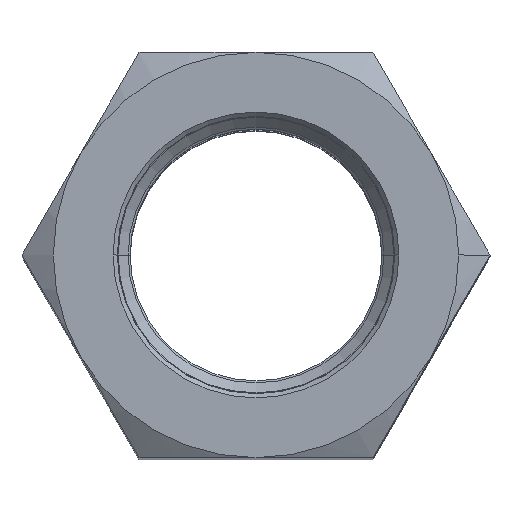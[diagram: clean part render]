
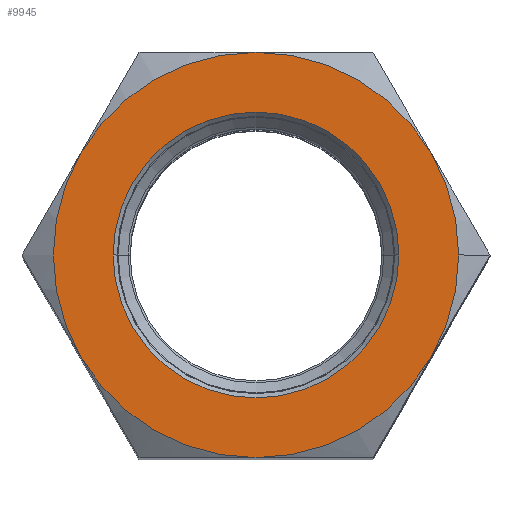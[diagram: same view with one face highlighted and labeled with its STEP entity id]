
A CAD part, top view. The second image highlights one B-rep face of the part: STEP entity #9945.
In plain terms, the highlighted planar face has unit normal (0, 0, 1).
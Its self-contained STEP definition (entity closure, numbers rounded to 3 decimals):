
#19 = ORIENTED_EDGE ( 'NONE', *, *, #7348, .F. ) ;
#508 = AXIS2_PLACEMENT_3D ( 'NONE', #5504, #14584, #6819 ) ;
#779 = DIRECTION ( 'NONE',  ( -1., 0., 0. ) ) ;
#870 = CARTESIAN_POINT ( 'NONE',  ( 8.227, 4.75, 27. ) ) ;
#985 = CIRCLE ( 'NONE', #1119, 9.5 ) ;
#1022 = DIRECTION ( 'NONE',  ( 1., 0., 0. ) ) ;
#1119 = AXIS2_PLACEMENT_3D ( 'NONE', #2523, #11692, #3830 ) ;
#1401 = DIRECTION ( 'NONE',  ( 0., 0., -1. ) ) ;
#1517 = CIRCLE ( 'NONE', #14993, 9.5 ) ;
#1647 = CARTESIAN_POINT ( 'NONE',  ( -8.227, -4.75, 27. ) ) ;
#1997 = ORIENTED_EDGE ( 'NONE', *, *, #15828, .T. ) ;
#2523 = CARTESIAN_POINT ( 'NONE',  ( 0., 0., 27. ) ) ;
#2727 = EDGE_CURVE ( 'NONE', #4271, #3280, #15920, .T. ) ;
#2812 = CIRCLE ( 'NONE', #7295, 9.5 ) ;
#2899 = VERTEX_POINT ( 'NONE', #1647 ) ;
#3064 = ORIENTED_EDGE ( 'NONE', *, *, #8447, .F. ) ;
#3181 = AXIS2_PLACEMENT_3D ( 'NONE', #16592, #8876, #1022 ) ;
#3280 = VERTEX_POINT ( 'NONE', #8014 ) ;
#3421 = DIRECTION ( 'NONE',  ( 0., 0., -1. ) ) ;
#3721 = ORIENTED_EDGE ( 'NONE', *, *, #15866, .F. ) ;
#3830 = DIRECTION ( 'NONE',  ( 1., 0., 0. ) ) ;
#4036 = CARTESIAN_POINT ( 'NONE',  ( 0., 0., 27. ) ) ;
#4051 = EDGE_CURVE ( 'NONE', #15728, #12837, #13264, .T. ) ;
#4271 = VERTEX_POINT ( 'NONE', #9378 ) ;
#5040 = CARTESIAN_POINT ( 'NONE',  ( 8.227, -4.75, 27. ) ) ;
#5215 = CARTESIAN_POINT ( 'NONE',  ( 0., 0., 27. ) ) ;
#5366 = DIRECTION ( 'NONE',  ( 1., 0., 0. ) ) ;
#5489 = CARTESIAN_POINT ( 'NONE',  ( -8.227, 4.75, 27. ) ) ;
#5504 = CARTESIAN_POINT ( 'NONE',  ( 0., 0., 27. ) ) ;
#6107 = CARTESIAN_POINT ( 'NONE',  ( 0., 9.5, 27. ) ) ;
#6323 = CIRCLE ( 'NONE', #6406, 9.5 ) ;
#6365 = DIRECTION ( 'NONE',  ( -1., 0., 0. ) ) ;
#6406 = AXIS2_PLACEMENT_3D ( 'NONE', #5215, #14307, #6536 ) ;
#6536 = DIRECTION ( 'NONE',  ( 1., 0., 0. ) ) ;
#6742 = CARTESIAN_POINT ( 'NONE',  ( 9.5, 0., 27. ) ) ;
#6778 = ORIENTED_EDGE ( 'NONE', *, *, #4051, .F. ) ;
#6819 = DIRECTION ( 'NONE',  ( 1., 0., 0. ) ) ;
#7240 = DIRECTION ( 'NONE',  ( 0., 0., 1. ) ) ;
#7295 = AXIS2_PLACEMENT_3D ( 'NONE', #9273, #1401, #10585 ) ;
#7301 = EDGE_LOOP ( 'NONE', ( #15622, #13775 ) ) ;
#7348 = EDGE_CURVE ( 'NONE', #12837, #11735, #8221, .T. ) ;
#8014 = CARTESIAN_POINT ( 'NONE',  ( -6.7, 0., 27. ) ) ;
#8221 = CIRCLE ( 'NONE', #508, 9.5 ) ;
#8447 = EDGE_CURVE ( 'NONE', #8874, #15726, #1517, .T. ) ;
#8488 = PLANE ( 'NONE',  #10947 ) ;
#8632 = DIRECTION ( 'NONE',  ( 0., 0., -1. ) ) ;
#8874 = VERTEX_POINT ( 'NONE', #5489 ) ;
#8876 = DIRECTION ( 'NONE',  ( 0., 0., -1. ) ) ;
#9022 = ORIENTED_EDGE ( 'NONE', *, *, #15783, .F. ) ;
#9033 = EDGE_LOOP ( 'NONE', ( #11729, #19, #6778, #1997, #3064, #9022, #3721 ) ) ;
#9273 = CARTESIAN_POINT ( 'NONE',  ( 0., 0., 27. ) ) ;
#9378 = CARTESIAN_POINT ( 'NONE',  ( 6.7, 0., 27. ) ) ;
#9945 = ADVANCED_FACE ( 'NONE', ( #13233, #16637 ), #8488, .T. ) ;
#10059 = CIRCLE ( 'NONE', #16351, 6.7 ) ;
#10585 = DIRECTION ( 'NONE',  ( 1., 0., 0. ) ) ;
#10619 = CARTESIAN_POINT ( 'NONE',  ( 0., -9.5, 27. ) ) ;
#10947 = AXIS2_PLACEMENT_3D ( 'NONE', #14966, #7240, #16254 ) ;
#11288 = CARTESIAN_POINT ( 'NONE',  ( 0., 0., 27. ) ) ;
#11304 = AXIS2_PLACEMENT_3D ( 'NONE', #11408, #12905, #6365 ) ;
#11408 = CARTESIAN_POINT ( 'NONE',  ( 0., 0., 27. ) ) ;
#11692 = DIRECTION ( 'NONE',  ( 0., 0., -1. ) ) ;
#11729 = ORIENTED_EDGE ( 'NONE', *, *, #14525, .F. ) ;
#11735 = VERTEX_POINT ( 'NONE', #5040 ) ;
#12567 = DIRECTION ( 'NONE',  ( 1., 0., 0. ) ) ;
#12837 = VERTEX_POINT ( 'NONE', #6742 ) ;
#12905 = DIRECTION ( 'NONE',  ( 0., 0., -1. ) ) ;
#12914 = CIRCLE ( 'NONE', #13417, 9.5 ) ;
#13175 = DIRECTION ( 'NONE',  ( 0., 0., -1. ) ) ;
#13233 = FACE_OUTER_BOUND ( 'NONE', #9033, .T. ) ;
#13264 = CIRCLE ( 'NONE', #3181, 9.5 ) ;
#13417 = AXIS2_PLACEMENT_3D ( 'NONE', #4036, #13175, #5366 ) ;
#13539 = VERTEX_POINT ( 'NONE', #10619 ) ;
#13775 = ORIENTED_EDGE ( 'NONE', *, *, #2727, .T. ) ;
#14307 = DIRECTION ( 'NONE',  ( 0., 0., 1. ) ) ;
#14525 = EDGE_CURVE ( 'NONE', #11735, #13539, #12914, .T. ) ;
#14584 = DIRECTION ( 'NONE',  ( 0., 0., -1. ) ) ;
#14966 = CARTESIAN_POINT ( 'NONE',  ( -10.97, 0., 27. ) ) ;
#14993 = AXIS2_PLACEMENT_3D ( 'NONE', #11288, #3421, #12567 ) ;
#15078 = EDGE_CURVE ( 'NONE', #3280, #4271, #10059, .T. ) ;
#15622 = ORIENTED_EDGE ( 'NONE', *, *, #15078, .T. ) ;
#15726 = VERTEX_POINT ( 'NONE', #6107 ) ;
#15728 = VERTEX_POINT ( 'NONE', #870 ) ;
#15783 = EDGE_CURVE ( 'NONE', #2899, #8874, #985, .T. ) ;
#15828 = EDGE_CURVE ( 'NONE', #15728, #15726, #6323, .T. ) ;
#15866 = EDGE_CURVE ( 'NONE', #13539, #2899, #2812, .T. ) ;
#15920 = CIRCLE ( 'NONE', #11304, 6.7 ) ;
#16254 = DIRECTION ( 'NONE',  ( 1., 0., 0. ) ) ;
#16340 = CARTESIAN_POINT ( 'NONE',  ( 0., 0., 27. ) ) ;
#16351 = AXIS2_PLACEMENT_3D ( 'NONE', #16340, #8632, #779 ) ;
#16592 = CARTESIAN_POINT ( 'NONE',  ( 0., 0., 27. ) ) ;
#16637 = FACE_BOUND ( 'NONE', #7301, .T. ) ;
